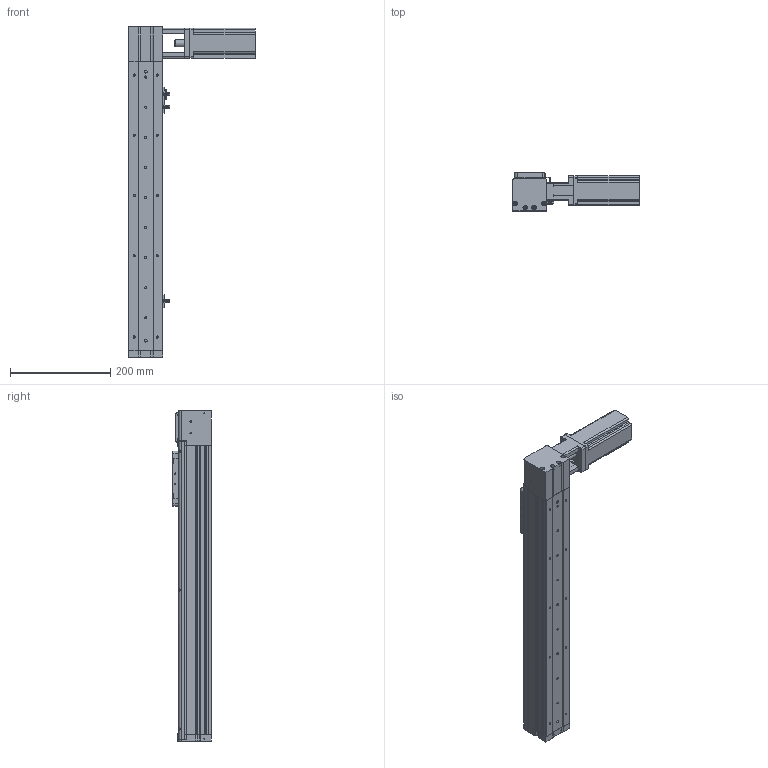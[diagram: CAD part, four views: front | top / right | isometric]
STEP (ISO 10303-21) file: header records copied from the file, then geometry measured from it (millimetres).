
FILE_DESCRIPTION (( 'STEP AP214' ), '1' );
FILE_NAME ('KSD68BS-S400-MRT-CR.STEP', '2019-08-27T06:57:23', ( '微软用户' ), ( '微软中国' ), 'SwSTEP 2.0', 'SolidWorks 2014', '' );
FILE_SCHEMA (( 'AUTOMOTIVE_DESIGN' ));
Length unit declared in the file: millimetre
Products named in the file (13): KSD68BS-S400-MRT-CR; KSD68BS 400行程底板全封闭; 台达ECMA－C20604AS伺服电机（400W); U倰嫖萇EEㄜSX672; 感应片68宽全封闭; 68单导轨全封闭同步带安装板; 68单导轨全封闭同步带电机座左; 68宽单导轨全封闭同步带端板; KSD68BS 400行程侧板全封闭; 68宽单导轨全封闭丝杆传动安装板1防护罩; 68遵裔啣揤啣1; KSD68BS 400行程盖板全封闭; 100遵鎮湛假蚾啣1
Assembly tree (16 placements, depth 2):
  KSD68BS-S400-MRT-CR
    KSD68BS 400行程底板全封闭
    台达ECMA－C20604AS伺服电机（400W)
    U倰嫖萇EEㄜSX672  x3
    感应片68宽全封闭
    68单导轨全封闭同步带安装板
    68单导轨全封闭同步带电机座左
    68宽单导轨全封闭同步带端板
    KSD68BS 400行程侧板全封闭  x2
    68宽单导轨全封闭丝杆传动安装板1防护罩
    68遵裔啣揤啣1  x2
    KSD68BS 400行程盖板全封闭
    100遵鎮湛假蚾啣1
Bounding box: 252.7 x 77 x 658.1 mm (x, y, z)
Volume: 1677329.9 mm3; surface area: 551821.7 mm2
Topology: 17 solids, 17 shells, 1315 faces, 3700 edges, 2378 vertices
Faces by surface type: plane 594, cylinder 589, cone 132
Entity records: 40706 total; most frequent: CARTESIAN_POINT 6827, DIRECTION 6095, ORIENTED_EDGE 5844, EDGE_CURVE 2922, AXIS2_PLACEMENT_3D 2170, VERTEX_POINT 1916, LINE 1755, VECTOR 1755
